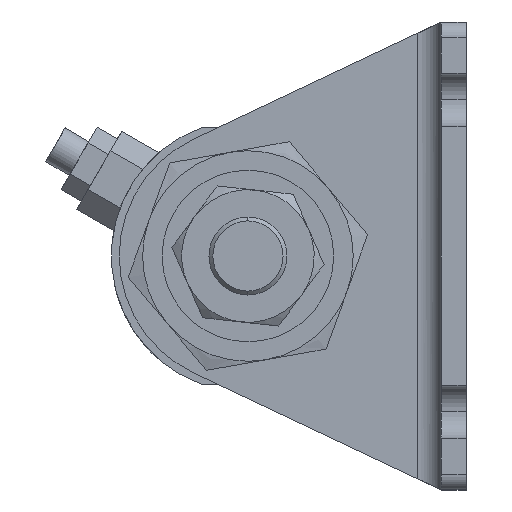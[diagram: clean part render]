
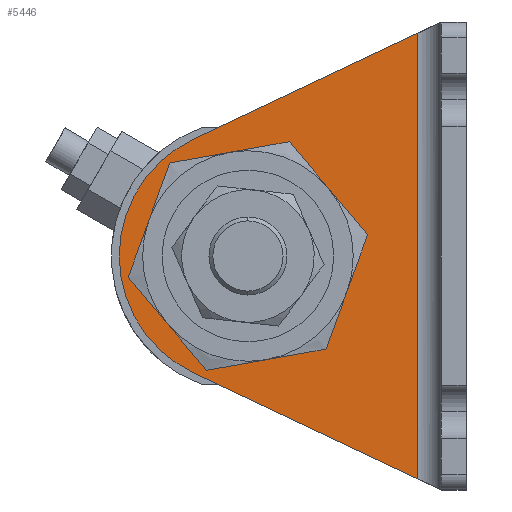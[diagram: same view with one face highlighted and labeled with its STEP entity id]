
A CAD part, left-side view. The second image highlights one B-rep face of the part: STEP entity #5446.
In plain terms, the highlighted planar face has unit normal (-1, 0, 0) as drawn and (1, 0, 0) by its records, which use the part's own axes.
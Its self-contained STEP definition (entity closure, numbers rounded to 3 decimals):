
#62 = AXIS2_PLACEMENT_3D ( 'NONE', #2652, #1327, #3413 ) ;
#140 = CARTESIAN_POINT ( 'NONE',  ( 3.2, 39.5, -30. ) ) ;
#302 = ORIENTED_EDGE ( 'NONE', *, *, #4933, .T. ) ;
#351 = CARTESIAN_POINT ( 'NONE',  ( 3.2, 3.2, -60. ) ) ;
#609 = EDGE_CURVE ( 'NONE', #2011, #4111, #1069, .T. ) ;
#798 = CARTESIAN_POINT ( 'NONE',  ( 3.2, 26.408, -10.99 ) ) ;
#877 = CARTESIAN_POINT ( 'NONE',  ( 3.2, 28., -30. ) ) ;
#940 = EDGE_CURVE ( 'NONE', #2011, #4673, #4665, .T. ) ;
#1066 = CARTESIAN_POINT ( 'NONE',  ( 3.2, 35.062, -44.913 ) ) ;
#1069 = LINE ( 'NONE', #798, #3101 ) ;
#1272 = CIRCLE ( 'NONE', #3064, 16.5 ) ;
#1327 = DIRECTION ( 'NONE',  ( 1., 0., 0. ) ) ;
#1449 = CARTESIAN_POINT ( 'NONE',  ( 3.2, 44.5, -30. ) ) ;
#1558 = CIRCLE ( 'NONE', #2432, 16.5 ) ;
#1637 = DIRECTION ( 'NONE',  ( 0., 1., 0. ) ) ;
#1674 = VERTEX_POINT ( 'NONE', #1066 ) ;
#1686 = ORIENTED_EDGE ( 'NONE', *, *, #609, .F. ) ;
#1839 = ORIENTED_EDGE ( 'NONE', *, *, #5542, .T. ) ;
#1938 = CARTESIAN_POINT ( 'NONE',  ( 3.2, 16.5, -30. ) ) ;
#2011 = VERTEX_POINT ( 'NONE', #4056 ) ;
#2088 = ORIENTED_EDGE ( 'NONE', *, *, #4790, .F. ) ;
#2148 = CARTESIAN_POINT ( 'NONE',  ( 3.2, 3.2, -60. ) ) ;
#2224 = FACE_BOUND ( 'NONE', #5471, .T. ) ;
#2365 = ORIENTED_EDGE ( 'NONE', *, *, #940, .T. ) ;
#2432 = AXIS2_PLACEMENT_3D ( 'NONE', #5425, #4801, #1637 ) ;
#2460 = ORIENTED_EDGE ( 'NONE', *, *, #4263, .F. ) ;
#2535 = VERTEX_POINT ( 'NONE', #1449 ) ;
#2613 = DIRECTION ( 'NONE',  ( 0., 1., 0. ) ) ;
#2652 = CARTESIAN_POINT ( 'NONE',  ( 3.2, 28., -30. ) ) ;
#2697 = DIRECTION ( 'NONE',  ( 0., 1., 0. ) ) ;
#2701 = VERTEX_POINT ( 'NONE', #140 ) ;
#2796 = PLANE ( 'NONE',  #4157 ) ;
#2937 = EDGE_CURVE ( 'NONE', #1674, #2535, #1272, .T. ) ;
#3064 = AXIS2_PLACEMENT_3D ( 'NONE', #877, #4874, #3899 ) ;
#3101 = VECTOR ( 'NONE', #3914, 1000. ) ;
#3167 = CARTESIAN_POINT ( 'NONE',  ( 3.2, 35.062, -15.087 ) ) ;
#3263 = CIRCLE ( 'NONE', #62, 11.5 ) ;
#3413 = DIRECTION ( 'NONE',  ( 0., 1., 0. ) ) ;
#3453 = VECTOR ( 'NONE', #5116, 1000. ) ;
#3656 = AXIS2_PLACEMENT_3D ( 'NONE', #4920, #5106, #2697 ) ;
#3899 = DIRECTION ( 'NONE',  ( 0., 1., 0. ) ) ;
#3914 = DIRECTION ( 'NONE',  ( 0., 0.904, -0.428 ) ) ;
#3947 = VERTEX_POINT ( 'NONE', #1938 ) ;
#4056 = CARTESIAN_POINT ( 'NONE',  ( 3.2, 6.2, -1.421 ) ) ;
#4111 = VERTEX_POINT ( 'NONE', #3167 ) ;
#4116 = VECTOR ( 'NONE', #5193, 1000. ) ;
#4139 = ORIENTED_EDGE ( 'NONE', *, *, #2937, .T. ) ;
#4157 = AXIS2_PLACEMENT_3D ( 'NONE', #351, #5012, #2613 ) ;
#4263 = EDGE_CURVE ( 'NONE', #2701, #3947, #5563, .T. ) ;
#4665 = LINE ( 'NONE', #5195, #3453 ) ;
#4673 = VERTEX_POINT ( 'NONE', #5231 ) ;
#4739 = LINE ( 'NONE', #2148, #4116 ) ;
#4790 = EDGE_CURVE ( 'NONE', #3947, #2701, #3263, .T. ) ;
#4801 = DIRECTION ( 'NONE',  ( 1., 0., 0. ) ) ;
#4874 = DIRECTION ( 'NONE',  ( 1., 0., 0. ) ) ;
#4920 = CARTESIAN_POINT ( 'NONE',  ( 3.2, 28., -30. ) ) ;
#4933 = EDGE_CURVE ( 'NONE', #2535, #4111, #1558, .T. ) ;
#5012 = DIRECTION ( 'NONE',  ( 1., 0., 0. ) ) ;
#5106 = DIRECTION ( 'NONE',  ( 1., 0., 0. ) ) ;
#5116 = DIRECTION ( 'NONE',  ( 0., 0., -1. ) ) ;
#5124 = EDGE_LOOP ( 'NONE', ( #1686, #2365, #1839, #4139, #302 ) ) ;
#5193 = DIRECTION ( 'NONE',  ( 0., 0.904, 0.428 ) ) ;
#5195 = CARTESIAN_POINT ( 'NONE',  ( 3.2, 6.2, -60. ) ) ;
#5231 = CARTESIAN_POINT ( 'NONE',  ( 3.2, 6.2, -58.579 ) ) ;
#5425 = CARTESIAN_POINT ( 'NONE',  ( 3.2, 28., -30. ) ) ;
#5446 = ADVANCED_FACE ( 'NONE', ( #5637, #2224 ), #2796, .T. ) ;
#5471 = EDGE_LOOP ( 'NONE', ( #2460, #2088 ) ) ;
#5542 = EDGE_CURVE ( 'NONE', #4673, #1674, #4739, .T. ) ;
#5563 = CIRCLE ( 'NONE', #3656, 11.5 ) ;
#5637 = FACE_OUTER_BOUND ( 'NONE', #5124, .T. ) ;
